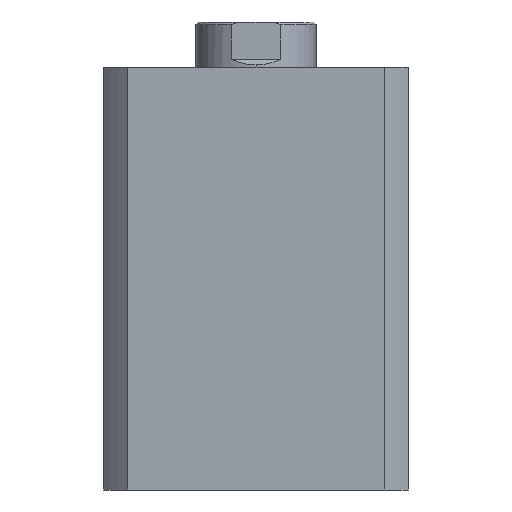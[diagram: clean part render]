
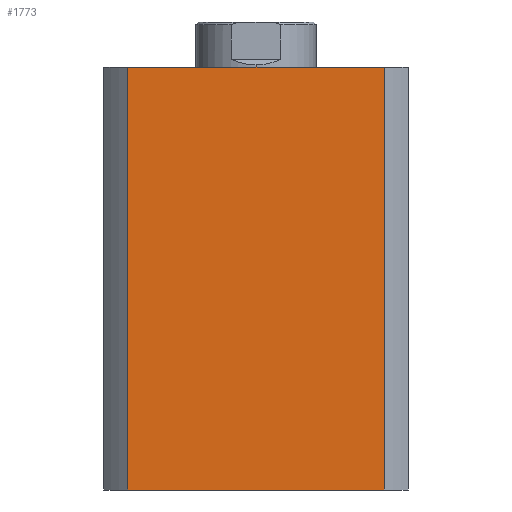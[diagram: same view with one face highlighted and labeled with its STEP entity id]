
A CAD part, left-side view. The second image highlights one B-rep face of the part: STEP entity #1773.
In plain terms, the highlighted planar face has unit normal (-1, 0, 0).
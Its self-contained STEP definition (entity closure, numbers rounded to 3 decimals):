
#1 = CARTESIAN_POINT ( 'NONE',  ( -57., 47.971, 0. ) ) ;
#32 = CARTESIAN_POINT ( 'NONE',  ( -57., 47.971, 158. ) ) ;
#592 = EDGE_CURVE ( 'NONE', #4999, #4955, #3078, .T. ) ;
#593 = EDGE_CURVE ( 'NONE', #4955, #4900, #3081, .T. ) ;
#595 = EDGE_CURVE ( 'NONE', #4999, #4966, #3085, .T. ) ;
#698 = EDGE_CURVE ( 'NONE', #4966, #4900, #4589, .T. ) ;
#722 = DIRECTION ( 'NONE',  ( 0., 0., -1. ) ) ;
#723 = DIRECTION ( 'NONE',  ( 1., 0., 0. ) ) ;
#725 = PLANE ( 'NONE',  #2264 ) ;
#732 = CARTESIAN_POINT ( 'NONE',  ( -57., 0., 158. ) ) ;
#786 = DIRECTION ( 'NONE',  ( 0., -1., 0. ) ) ;
#787 = CARTESIAN_POINT ( 'NONE',  ( -57., 0., 0. ) ) ;
#1059 = EDGE_LOOP ( 'NONE', ( #3668, #3667, #3666, #3665 ) ) ;
#1773 = ADVANCED_FACE ( 'NONE', ( #4610 ), #725, .F. ) ;
#2058 = DIRECTION ( 'NONE',  ( 0., 0., -1. ) ) ;
#2059 = CARTESIAN_POINT ( 'NONE',  ( -57., -47.971, 158. ) ) ;
#2064 = CARTESIAN_POINT ( 'NONE',  ( -57., 0., 158. ) ) ;
#2065 = DIRECTION ( 'NONE',  ( 0., 0., -1. ) ) ;
#2066 = CARTESIAN_POINT ( 'NONE',  ( -57., 47.971, 158. ) ) ;
#2068 = DIRECTION ( 'NONE',  ( 0., -1., 0. ) ) ;
#2264 = AXIS2_PLACEMENT_3D ( 'NONE', #732, #723, #722 ) ;
#3078 = LINE ( 'NONE', #2064, #3082 ) ;
#3081 = LINE ( 'NONE', #2059, #3084 ) ;
#3082 = VECTOR ( 'NONE', #2068, 1000. ) ;
#3084 = VECTOR ( 'NONE', #2058, 1000. ) ;
#3085 = LINE ( 'NONE', #2066, #3087 ) ;
#3087 = VECTOR ( 'NONE', #2065, 1000. ) ;
#3159 = CARTESIAN_POINT ( 'NONE',  ( -57., -47.971, 158. ) ) ;
#3227 = CARTESIAN_POINT ( 'NONE',  ( -57., -47.971, 0. ) ) ;
#3665 = ORIENTED_EDGE ( 'NONE', *, *, #595, .T. ) ;
#3666 = ORIENTED_EDGE ( 'NONE', *, *, #592, .F. ) ;
#3667 = ORIENTED_EDGE ( 'NONE', *, *, #593, .F. ) ;
#3668 = ORIENTED_EDGE ( 'NONE', *, *, #698, .T. ) ;
#4589 = LINE ( 'NONE', #787, #4592 ) ;
#4592 = VECTOR ( 'NONE', #786, 1000. ) ;
#4610 = FACE_OUTER_BOUND ( 'NONE', #1059, .T. ) ;
#4900 = VERTEX_POINT ( 'NONE', #3227 ) ;
#4955 = VERTEX_POINT ( 'NONE', #3159 ) ;
#4966 = VERTEX_POINT ( 'NONE', #1 ) ;
#4999 = VERTEX_POINT ( 'NONE', #32 ) ;
